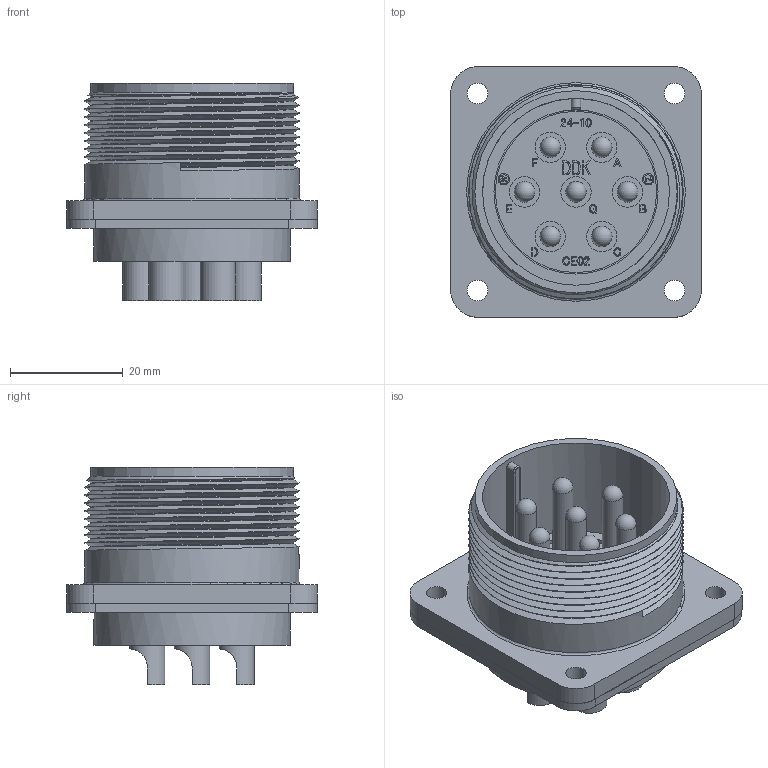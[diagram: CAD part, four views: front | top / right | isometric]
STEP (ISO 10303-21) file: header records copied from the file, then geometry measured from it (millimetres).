
FILE_DESCRIPTION (( 'STEP AP203' ), '1' );
FILE_NAME ('CE02-2A24-10PS-D.STEP', '2022-04-19T10:27:33', ( '' ), ( '' ), 'SwSTEP 2.0', 'SolidWorks 2018', '' );
FILE_SCHEMA (( 'CONFIG_CONTROL_DESIGN' ));
Products named in the file (1): CE02-2A24-10PS-D
Bounding box: 44.45 x 44.45 x 38.56 mm (x, y, z)
Volume: 21042.3 mm3; surface area: 14839.2 mm2
Topology: 1 solids, 1 shells, 887 faces, 2391 edges, 1584 vertices
Faces by surface type: plane 465, bspline 301, cylinder 103, cone 9, sphere 7, torus 2
Full cylindrical faces by diameter (mm): 1.6 x2, 2 x2, 3.61 x4, 3.63 x7, 3.7 x4, 5.2 x7, 5.4 x7, 6.25 x7, 7.94 x1, 27.3 x1, 28.6 x1, 29.1 x1, 33.15 x1, 34.92 x1, 35.87 x1, 38 x9
Entity records: 37621 total; most frequent: CARTESIAN_POINT 17996, ORIENTED_EDGE 4520, DIRECTION 2947, EDGE_CURVE 2260, VERTEX_POINT 1532, VECTOR 1455, LINE 1455, EDGE_LOOP 1036
